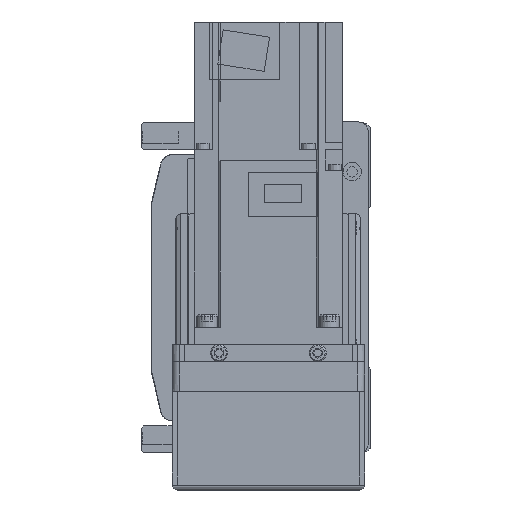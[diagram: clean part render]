
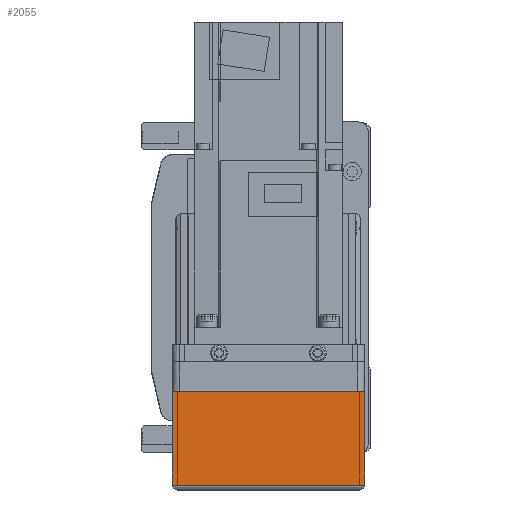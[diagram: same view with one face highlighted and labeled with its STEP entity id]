
A CAD part, left-side view. The second image highlights one B-rep face of the part: STEP entity #2055.
In plain terms, the highlighted planar face has unit normal (-1, 0, 0).
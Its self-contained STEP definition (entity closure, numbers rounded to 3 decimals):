
#2055 = ADVANCED_FACE( '', ( #4972 ), #4973, .F. );
#4972 = FACE_OUTER_BOUND( '', #8910, .T. );
#4973 = PLANE( '', #8911 );
#8910 = EDGE_LOOP( '', ( #14693, #14694, #14695, #14696 ) );
#8911 = AXIS2_PLACEMENT_3D( '', #14697, #14698, #14699 );
#14693 = ORIENTED_EDGE( '', *, *, #21929, .F. );
#14694 = ORIENTED_EDGE( '', *, *, #23580, .F. );
#14695 = ORIENTED_EDGE( '', *, *, #23556, .T. );
#14696 = ORIENTED_EDGE( '', *, *, #23445, .F. );
#14697 = CARTESIAN_POINT( '', ( -158., 36., 7. ) );
#14698 = DIRECTION( '', ( 1., 0., 0. ) );
#14699 = DIRECTION( '', ( 0., 0., -1. ) );
#21929 = EDGE_CURVE( '', #25972, #25974, #25975, .T. );
#23445 = EDGE_CURVE( '', #25974, #28558, #28559, .T. );
#23556 = EDGE_CURVE( '', #28729, #28558, #28733, .T. );
#23580 = EDGE_CURVE( '', #28729, #25972, #28770, .T. );
#25972 = VERTEX_POINT( '', #31927 );
#25974 = VERTEX_POINT( '', #31930 );
#25975 = LINE( '', #31931, #31932 );
#28558 = VERTEX_POINT( '', #35844 );
#28559 = LINE( '', #35845, #35846 );
#28729 = VERTEX_POINT( '', #36129 );
#28733 = LINE( '', #36134, #36135 );
#28770 = LINE( '', #36183, #36184 );
#31927 = CARTESIAN_POINT( '', ( -158., 39., -12.1 ) );
#31930 = CARTESIAN_POINT( '', ( -158., -39., -12.1 ) );
#31931 = CARTESIAN_POINT( '', ( -158., 50., -12.1 ) );
#31932 = VECTOR( '', #41241, 1000. );
#35844 = CARTESIAN_POINT( '', ( -158., -39., -50. ) );
#35845 = CARTESIAN_POINT( '', ( -158., -39., -12.1 ) );
#35846 = VECTOR( '', #43251, 1000. );
#36129 = CARTESIAN_POINT( '', ( -158., 39., -50. ) );
#36134 = CARTESIAN_POINT( '', ( -158., 40., -50. ) );
#36135 = VECTOR( '', #43384, 1000. );
#36183 = CARTESIAN_POINT( '', ( -158., 39., -50. ) );
#36184 = VECTOR( '', #43411, 1000. );
#41241 = DIRECTION( '', ( 0., -1., 0. ) );
#43251 = DIRECTION( '', ( 0., 0., -1. ) );
#43384 = DIRECTION( '', ( 0., -1., 0. ) );
#43411 = DIRECTION( '', ( 0., 0., 1. ) );
